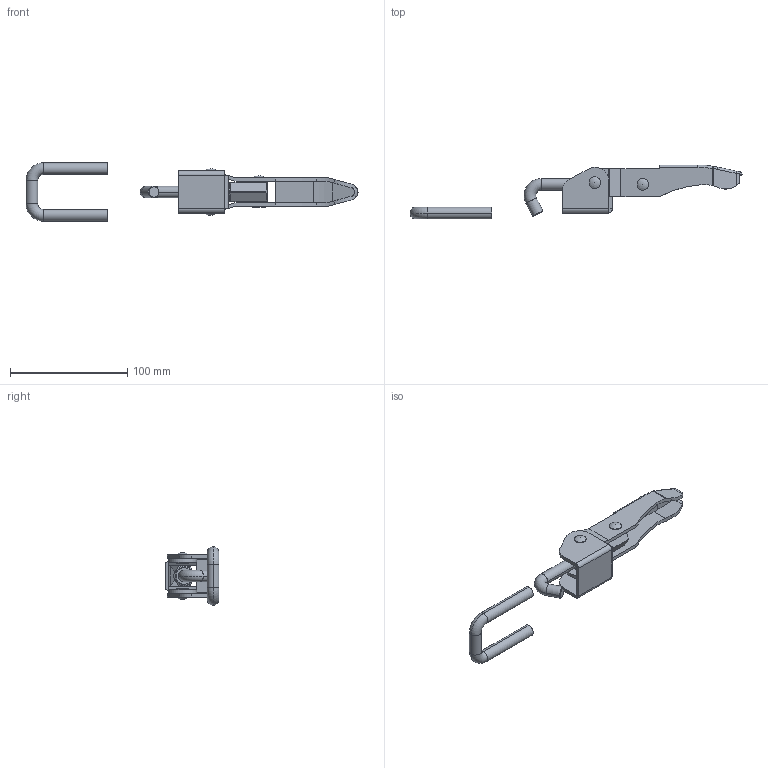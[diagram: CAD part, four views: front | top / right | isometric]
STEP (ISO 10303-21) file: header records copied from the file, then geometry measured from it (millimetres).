
FILE_DESCRIPTION (( 'STEP AP214' ), '1' );
FILE_NAME ('ISK-FA1500.STEP', '2015-08-11T11:11:36', ( '' ), ( '' ), 'SwSTEP 2.0', 'SolidWorks 2015', '' );
FILE_SCHEMA (( 'AUTOMOTIVE_DESIGN' ));
Length unit declared in the file: millimetre
Products named in the file (9): Rivet_兂6亊6; Nut_M10; H-Nut_M10L32; Handle; Arm; Base; ISK-FA1500; U-Part; Rivet_Φ8×24
Assembly tree (9 placements, depth 2):
  ISK-FA1500
    Base
    Arm
    Handle
    H-Nut_M10L32
    Nut_M10
    Rivet_兂6亊6  x2
    Rivet_Φ8×24
    U-Part
Bounding box: 283.7 x 46 x 50 mm (x, y, z)
Volume: 61061.9 mm3; surface area: 38244 mm2
Topology: 9 solids, 9 shells, 228 faces, 559 edges, 350 vertices
Faces by surface type: cylinder 94, plane 84, cone 32, torus 8, bspline 5, sphere 5
Entity records: 7347 total; most frequent: CARTESIAN_POINT 1827, DIRECTION 1073, ORIENTED_EDGE 1064, EDGE_CURVE 532, AXIS2_PLACEMENT_3D 414, VERTEX_POINT 332, LINE 245, VECTOR 245
